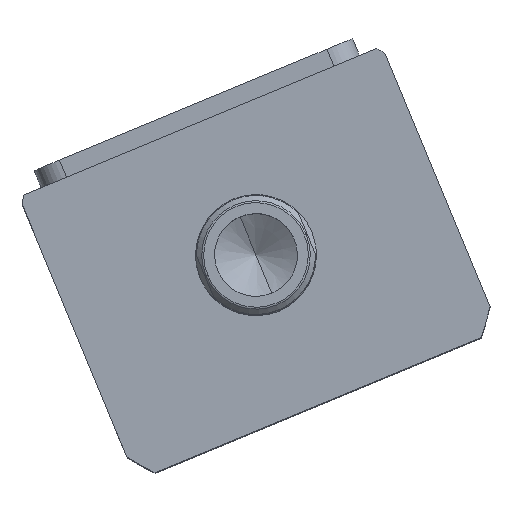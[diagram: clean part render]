
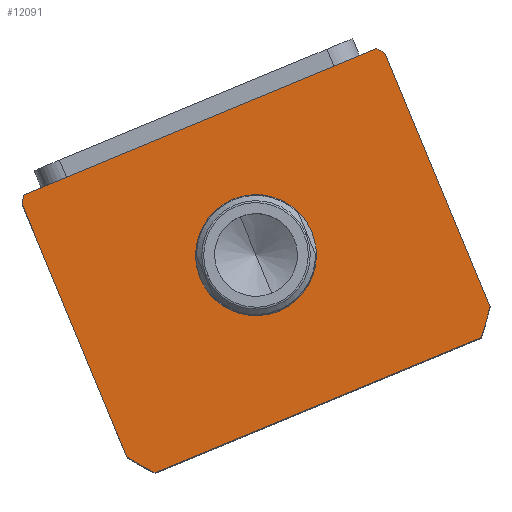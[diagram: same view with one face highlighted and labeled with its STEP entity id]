
A CAD part, top view. The second image highlights one B-rep face of the part: STEP entity #12091.
In plain terms, the highlighted planar face has unit normal (0, 0, 1) as drawn and (0, 0, -1) by its records, which use the part's own axes.
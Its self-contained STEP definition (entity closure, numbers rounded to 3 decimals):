
#28 = CIRCLE ( 'NONE', #8512, 17.5 ) ;
#262 = CARTESIAN_POINT ( 'NONE',  ( 0., 2.5, 0. ) ) ;
#340 = DIRECTION ( 'NONE',  ( 1., 0., 0. ) ) ;
#398 = CARTESIAN_POINT ( 'NONE',  ( 0., 2.5, 0. ) ) ;
#643 = LINE ( 'NONE', #8808, #7771 ) ;
#969 = AXIS2_PLACEMENT_3D ( 'NONE', #8256, #18515, #9736 ) ;
#1001 = CARTESIAN_POINT ( 'NONE',  ( 55.374, 44.5, 0. ) ) ;
#1738 = ORIENTED_EDGE ( 'NONE', *, *, #2636, .T. ) ;
#1858 = DIRECTION ( 'NONE',  ( 1., 0., 0. ) ) ;
#2260 = EDGE_CURVE ( 'NONE', #8050, #2599, #14935, .T. ) ;
#2599 = VERTEX_POINT ( 'NONE', #17815 ) ;
#2636 = EDGE_CURVE ( 'NONE', #5507, #2889, #28, .T. ) ;
#2641 = CIRCLE ( 'NONE', #6954, 69.5 ) ;
#2772 = AXIS2_PLACEMENT_3D ( 'NONE', #3115, #13376, #4566 ) ;
#2824 = VERTEX_POINT ( 'NONE', #4932 ) ;
#2889 = VERTEX_POINT ( 'NONE', #18131 ) ;
#2954 = VECTOR ( 'NONE', #10879, 1000. ) ;
#3115 = CARTESIAN_POINT ( 'NONE',  ( 0., 0., 0. ) ) ;
#3262 = EDGE_CURVE ( 'NONE', #10570, #17994, #9422, .T. ) ;
#3510 = ORIENTED_EDGE ( 'NONE', *, *, #18099, .F. ) ;
#3552 = EDGE_LOOP ( 'NONE', ( #6853, #11610, #3510, #18135, #4256, #8962, #6796, #8961 ) ) ;
#4025 = FACE_BOUND ( 'NONE', #15473, .T. ) ;
#4086 = EDGE_CURVE ( 'NONE', #5562, #10324, #15349, .T. ) ;
#4256 = ORIENTED_EDGE ( 'NONE', *, *, #2260, .F. ) ;
#4440 = EDGE_CURVE ( 'NONE', #2599, #2824, #16508, .T. ) ;
#4566 = DIRECTION ( 'NONE',  ( 1., 0., 0. ) ) ;
#4811 = VECTOR ( 'NONE', #15068, 1000. ) ;
#4932 = CARTESIAN_POINT ( 'NONE',  ( 51.198, -44.5, 0. ) ) ;
#4964 = CARTESIAN_POINT ( 'NONE',  ( -57., 44.5, 0. ) ) ;
#5129 = DIRECTION ( 'NONE',  ( 0., 0., 1. ) ) ;
#5507 = VERTEX_POINT ( 'NONE', #11096 ) ;
#5562 = VERTEX_POINT ( 'NONE', #15497 ) ;
#5572 = EDGE_CURVE ( 'NONE', #2889, #5507, #7068, .T. ) ;
#6531 = EDGE_CURVE ( 'NONE', #17994, #8050, #18992, .T. ) ;
#6588 = CARTESIAN_POINT ( 'NONE',  ( 0., 2.5, 0. ) ) ;
#6796 = ORIENTED_EDGE ( 'NONE', *, *, #3262, .F. ) ;
#6853 = ORIENTED_EDGE ( 'NONE', *, *, #12370, .F. ) ;
#6954 = AXIS2_PLACEMENT_3D ( 'NONE', #13934, #5129, #15380 ) ;
#7068 = CIRCLE ( 'NONE', #969, 17.5 ) ;
#7151 = AXIS2_PLACEMENT_3D ( 'NONE', #6588, #16876, #8087 ) ;
#7244 = DIRECTION ( 'NONE',  ( 0., 1., 0. ) ) ;
#7759 = CARTESIAN_POINT ( 'NONE',  ( -57., -44.5, 0. ) ) ;
#7771 = VECTOR ( 'NONE', #14701, 1000. ) ;
#7908 = FACE_OUTER_BOUND ( 'NONE', #3552, .T. ) ;
#8050 = VERTEX_POINT ( 'NONE', #9406 ) ;
#8087 = DIRECTION ( 'NONE',  ( 1., 0., 0. ) ) ;
#8256 = CARTESIAN_POINT ( 'NONE',  ( 0., 2.5, 0. ) ) ;
#8268 = VERTEX_POINT ( 'NONE', #1001 ) ;
#8512 = AXIS2_PLACEMENT_3D ( 'NONE', #17882, #9110, #340 ) ;
#8808 = CARTESIAN_POINT ( 'NONE',  ( -57., 44.5, 0. ) ) ;
#8827 = CARTESIAN_POINT ( 'NONE',  ( -55.374, 44.5, 0. ) ) ;
#8837 = CARTESIAN_POINT ( 'NONE',  ( -57., 42.265, 0. ) ) ;
#8961 = ORIENTED_EDGE ( 'NONE', *, *, #19011, .F. ) ;
#8962 = ORIENTED_EDGE ( 'NONE', *, *, #6531, .F. ) ;
#9110 = DIRECTION ( 'NONE',  ( 0., 0., 1. ) ) ;
#9406 = CARTESIAN_POINT ( 'NONE',  ( -57., -37.265, 0. ) ) ;
#9422 = CIRCLE ( 'NONE', #7151, 69.5 ) ;
#9736 = DIRECTION ( 'NONE',  ( 1., 0., 0. ) ) ;
#10324 = VERTEX_POINT ( 'NONE', #13030 ) ;
#10419 = PLANE ( 'NONE',  #2772 ) ;
#10570 = VERTEX_POINT ( 'NONE', #8827 ) ;
#10578 = DIRECTION ( 'NONE',  ( 1., 0., 0. ) ) ;
#10645 = DIRECTION ( 'NONE',  ( 0., 0., 1. ) ) ;
#10879 = DIRECTION ( 'NONE',  ( 0., -1., 0. ) ) ;
#11020 = VECTOR ( 'NONE', #7244, 1000. ) ;
#11096 = CARTESIAN_POINT ( 'NONE',  ( -17.5, 2.5, 0. ) ) ;
#11610 = ORIENTED_EDGE ( 'NONE', *, *, #4086, .F. ) ;
#12091 = ADVANCED_FACE ( 'NONE', ( #4025, #7908 ), #10419, .F. ) ;
#12370 = EDGE_CURVE ( 'NONE', #10324, #8268, #2641, .T. ) ;
#13030 = CARTESIAN_POINT ( 'NONE',  ( 57., 42.265, 0. ) ) ;
#13376 = DIRECTION ( 'NONE',  ( 0., 0., 1. ) ) ;
#13541 = DIRECTION ( 'NONE',  ( 0., 0., 1. ) ) ;
#13802 = AXIS2_PLACEMENT_3D ( 'NONE', #262, #13541, #10578 ) ;
#13895 = ORIENTED_EDGE ( 'NONE', *, *, #5572, .T. ) ;
#13934 = CARTESIAN_POINT ( 'NONE',  ( 0., 2.5, 0. ) ) ;
#14701 = DIRECTION ( 'NONE',  ( -1., 0., 0. ) ) ;
#14935 = CIRCLE ( 'NONE', #13802, 69.5 ) ;
#15068 = DIRECTION ( 'NONE',  ( 1., 0., 0. ) ) ;
#15349 = LINE ( 'NONE', #16028, #11020 ) ;
#15380 = DIRECTION ( 'NONE',  ( 1., 0., 0. ) ) ;
#15473 = EDGE_LOOP ( 'NONE', ( #13895, #1738 ) ) ;
#15497 = CARTESIAN_POINT ( 'NONE',  ( 57., -37.265, 0. ) ) ;
#16006 = AXIS2_PLACEMENT_3D ( 'NONE', #398, #10645, #1858 ) ;
#16028 = CARTESIAN_POINT ( 'NONE',  ( 57., 44.5, 0. ) ) ;
#16508 = LINE ( 'NONE', #7759, #4811 ) ;
#16876 = DIRECTION ( 'NONE',  ( 0., 0., 1. ) ) ;
#17815 = CARTESIAN_POINT ( 'NONE',  ( -51.198, -44.5, 0. ) ) ;
#17882 = CARTESIAN_POINT ( 'NONE',  ( 0., 2.5, 0. ) ) ;
#17994 = VERTEX_POINT ( 'NONE', #8837 ) ;
#18099 = EDGE_CURVE ( 'NONE', #2824, #5562, #18461, .T. ) ;
#18131 = CARTESIAN_POINT ( 'NONE',  ( 17.5, 2.5, 0. ) ) ;
#18135 = ORIENTED_EDGE ( 'NONE', *, *, #4440, .F. ) ;
#18461 = CIRCLE ( 'NONE', #16006, 69.5 ) ;
#18515 = DIRECTION ( 'NONE',  ( 0., 0., 1. ) ) ;
#18992 = LINE ( 'NONE', #4964, #2954 ) ;
#19011 = EDGE_CURVE ( 'NONE', #8268, #10570, #643, .T. ) ;
